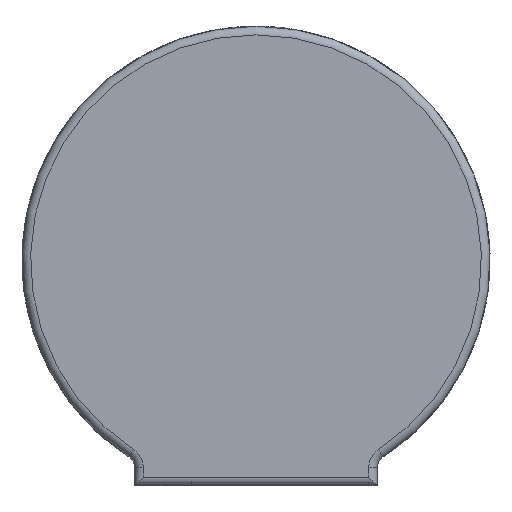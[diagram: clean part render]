
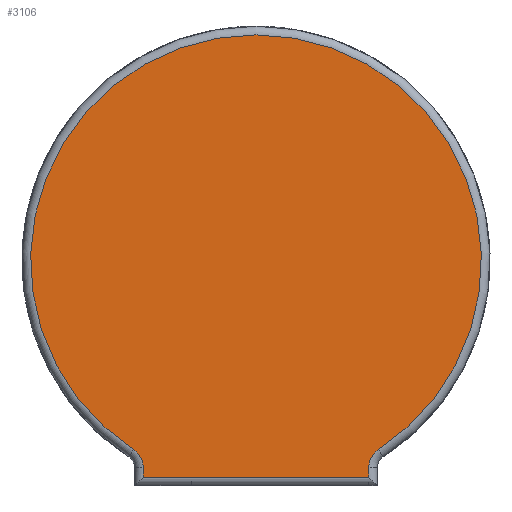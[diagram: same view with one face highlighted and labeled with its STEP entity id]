
A CAD part, front view. The second image highlights one B-rep face of the part: STEP entity #3106.
In plain terms, the highlighted planar face has unit normal (0, -1, 0).
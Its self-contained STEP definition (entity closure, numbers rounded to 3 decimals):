
#72 = CYLINDRICAL_SURFACE('',#73,1.);
#73 = AXIS2_PLACEMENT_3D('',#74,#75,#76);
#74 = CARTESIAN_POINT('',(-13.,-83.,-23.917));
#75 = DIRECTION('',(-0.,-0.,-1.));
#76 = DIRECTION('',(0.,-1.,0.));
#214 = TOROIDAL_SURFACE('',#215,2.5,1.);
#215 = AXIS2_PLACEMENT_3D('',#216,#217,#218);
#216 = CARTESIAN_POINT('',(-15.5,-83.,-23.917));
#217 = DIRECTION('',(-0.,-1.,-0.));
#218 = DIRECTION('',(0.544,-0.,0.839));
#321 = VERTEX_POINT('',#322);
#322 = CARTESIAN_POINT('',(-13.,-84.,-23.917));
#344 = VERTEX_POINT('',#345);
#345 = CARTESIAN_POINT('',(-13.,-84.,-25.));
#365 = CYLINDRICAL_SURFACE('',#366,1.);
#366 = AXIS2_PLACEMENT_3D('',#367,#368,#369);
#367 = CARTESIAN_POINT('',(-14.,-83.,-25.));
#368 = DIRECTION('',(1.,0.,0.));
#369 = DIRECTION('',(0.,-1.,0.));
#382 = EDGE_CURVE('',#321,#344,#383,.T.);
#383 = SURFACE_CURVE('',#384,(#388,#395),.PCURVE_S1.);
#384 = LINE('',#385,#386);
#385 = CARTESIAN_POINT('',(-13.,-84.,-23.917));
#386 = VECTOR('',#387,1.);
#387 = DIRECTION('',(-0.,-0.,-1.));
#388 = PCURVE('',#72,#389);
#389 = DEFINITIONAL_REPRESENTATION('',(#390),#394);
#390 = LINE('',#391,#392);
#391 = CARTESIAN_POINT('',(0.,0.));
#392 = VECTOR('',#393,1.);
#393 = DIRECTION('',(0.,1.));
#394 = ( GEOMETRIC_REPRESENTATION_CONTEXT(2) 
PARAMETRIC_REPRESENTATION_CONTEXT() REPRESENTATION_CONTEXT('2D SPACE',''
  ) );
#395 = PCURVE('',#396,#401);
#396 = PLANE('',#397);
#397 = AXIS2_PLACEMENT_3D('',#398,#399,#400);
#398 = CARTESIAN_POINT('',(-14.,-84.,-26.));
#399 = DIRECTION('',(0.,1.,0.));
#400 = DIRECTION('',(0.,0.,1.));
#401 = DEFINITIONAL_REPRESENTATION('',(#402),#406);
#402 = LINE('',#403,#404);
#403 = CARTESIAN_POINT('',(2.083,1.));
#404 = VECTOR('',#405,1.);
#405 = DIRECTION('',(-1.,-0.));
#406 = ( GEOMETRIC_REPRESENTATION_CONTEXT(2) 
PARAMETRIC_REPRESENTATION_CONTEXT() REPRESENTATION_CONTEXT('2D SPACE',''
  ) );
#1891 = VERTEX_POINT('',#1892);
#1892 = CARTESIAN_POINT('',(-14.14,-84.,-21.819));
#1906 = TOROIDAL_SURFACE('',#1907,26.,1.);
#1907 = AXIS2_PLACEMENT_3D('',#1908,#1909,#1910);
#1908 = CARTESIAN_POINT('',(0.,-83.,0.));
#1909 = DIRECTION('',(0.,1.,0.));
#1910 = DIRECTION('',(0.544,0.,-0.839));
#1917 = EDGE_CURVE('',#1891,#321,#1918,.T.);
#1918 = SURFACE_CURVE('',#1919,(#1924,#1931),.PCURVE_S1.);
#1919 = CIRCLE('',#1920,2.5);
#1920 = AXIS2_PLACEMENT_3D('',#1921,#1922,#1923);
#1921 = CARTESIAN_POINT('',(-15.5,-84.,-23.917));
#1922 = DIRECTION('',(0.,1.,0.));
#1923 = DIRECTION('',(0.544,-0.,0.839));
#1924 = PCURVE('',#214,#1925);
#1925 = DEFINITIONAL_REPRESENTATION('',(#1926),#1930);
#1926 = LINE('',#1927,#1928);
#1927 = CARTESIAN_POINT('',(-0.,1.571));
#1928 = VECTOR('',#1929,1.);
#1929 = DIRECTION('',(-1.,0.));
#1930 = ( GEOMETRIC_REPRESENTATION_CONTEXT(2) 
PARAMETRIC_REPRESENTATION_CONTEXT() REPRESENTATION_CONTEXT('2D SPACE',''
  ) );
#1931 = PCURVE('',#396,#1932);
#1932 = DEFINITIONAL_REPRESENTATION('',(#1933),#1937);
#1933 = CIRCLE('',#1934,2.5);
#1934 = AXIS2_PLACEMENT_2D('',#1935,#1936);
#1935 = CARTESIAN_POINT('',(2.083,-1.5));
#1936 = DIRECTION('',(0.839,0.544));
#1937 = ( GEOMETRIC_REPRESENTATION_CONTEXT(2) 
PARAMETRIC_REPRESENTATION_CONTEXT() REPRESENTATION_CONTEXT('2D SPACE',''
  ) );
#3106 = ADVANCED_FACE('',(#3107),#396,.F.);
#3107 = FACE_BOUND('',#3108,.F.);
#3108 = EDGE_LOOP('',(#3109,#3139,#3160,#3161,#3162,#3190));
#3109 = ORIENTED_EDGE('',*,*,#3110,.F.);
#3110 = EDGE_CURVE('',#3111,#3113,#3115,.T.);
#3111 = VERTEX_POINT('',#3112);
#3112 = CARTESIAN_POINT('',(13.,-84.,-25.));
#3113 = VERTEX_POINT('',#3114);
#3114 = CARTESIAN_POINT('',(13.,-84.,-23.917));
#3115 = SURFACE_CURVE('',#3116,(#3120,#3127),.PCURVE_S1.);
#3116 = LINE('',#3117,#3118);
#3117 = CARTESIAN_POINT('',(13.,-84.,-26.));
#3118 = VECTOR('',#3119,1.);
#3119 = DIRECTION('',(0.,0.,1.));
#3120 = PCURVE('',#396,#3121);
#3121 = DEFINITIONAL_REPRESENTATION('',(#3122),#3126);
#3122 = LINE('',#3123,#3124);
#3123 = CARTESIAN_POINT('',(0.,27.));
#3124 = VECTOR('',#3125,1.);
#3125 = DIRECTION('',(1.,0.));
#3126 = ( GEOMETRIC_REPRESENTATION_CONTEXT(2) 
PARAMETRIC_REPRESENTATION_CONTEXT() REPRESENTATION_CONTEXT('2D SPACE',''
  ) );
#3127 = PCURVE('',#3128,#3133);
#3128 = CYLINDRICAL_SURFACE('',#3129,1.);
#3129 = AXIS2_PLACEMENT_3D('',#3130,#3131,#3132);
#3130 = CARTESIAN_POINT('',(13.,-83.,-26.));
#3131 = DIRECTION('',(0.,0.,1.));
#3132 = DIRECTION('',(0.,-1.,0.));
#3133 = DEFINITIONAL_REPRESENTATION('',(#3134),#3138);
#3134 = LINE('',#3135,#3136);
#3135 = CARTESIAN_POINT('',(0.,0.));
#3136 = VECTOR('',#3137,1.);
#3137 = DIRECTION('',(0.,1.));
#3138 = ( GEOMETRIC_REPRESENTATION_CONTEXT(2) 
PARAMETRIC_REPRESENTATION_CONTEXT() REPRESENTATION_CONTEXT('2D SPACE',''
  ) );
#3139 = ORIENTED_EDGE('',*,*,#3140,.F.);
#3140 = EDGE_CURVE('',#344,#3111,#3141,.T.);
#3141 = SURFACE_CURVE('',#3142,(#3146,#3153),.PCURVE_S1.);
#3142 = LINE('',#3143,#3144);
#3143 = CARTESIAN_POINT('',(-14.,-84.,-25.));
#3144 = VECTOR('',#3145,1.);
#3145 = DIRECTION('',(1.,0.,0.));
#3146 = PCURVE('',#396,#3147);
#3147 = DEFINITIONAL_REPRESENTATION('',(#3148),#3152);
#3148 = LINE('',#3149,#3150);
#3149 = CARTESIAN_POINT('',(1.,0.));
#3150 = VECTOR('',#3151,1.);
#3151 = DIRECTION('',(0.,1.));
#3152 = ( GEOMETRIC_REPRESENTATION_CONTEXT(2) 
PARAMETRIC_REPRESENTATION_CONTEXT() REPRESENTATION_CONTEXT('2D SPACE',''
  ) );
#3153 = PCURVE('',#365,#3154);
#3154 = DEFINITIONAL_REPRESENTATION('',(#3155),#3159);
#3155 = LINE('',#3156,#3157);
#3156 = CARTESIAN_POINT('',(0.,0.));
#3157 = VECTOR('',#3158,1.);
#3158 = DIRECTION('',(0.,1.));
#3159 = ( GEOMETRIC_REPRESENTATION_CONTEXT(2) 
PARAMETRIC_REPRESENTATION_CONTEXT() REPRESENTATION_CONTEXT('2D SPACE',''
  ) );
#3160 = ORIENTED_EDGE('',*,*,#382,.F.);
#3161 = ORIENTED_EDGE('',*,*,#1917,.F.);
#3162 = ORIENTED_EDGE('',*,*,#3163,.F.);
#3163 = EDGE_CURVE('',#3164,#1891,#3166,.T.);
#3164 = VERTEX_POINT('',#3165);
#3165 = CARTESIAN_POINT('',(14.14,-84.,-21.819));
#3166 = SURFACE_CURVE('',#3167,(#3172,#3183),.PCURVE_S1.);
#3167 = CIRCLE('',#3168,26.);
#3168 = AXIS2_PLACEMENT_3D('',#3169,#3170,#3171);
#3169 = CARTESIAN_POINT('',(0.,-84.,0.));
#3170 = DIRECTION('',(0.,-1.,-0.));
#3171 = DIRECTION('',(0.544,0.,-0.839));
#3172 = PCURVE('',#396,#3173);
#3173 = DEFINITIONAL_REPRESENTATION('',(#3174),#3182);
#3174 = ( BOUNDED_CURVE() B_SPLINE_CURVE(2,(#3175,#3176,#3177,#3178,
#3179,#3180,#3181),.UNSPECIFIED.,.T.,.F.) B_SPLINE_CURVE_WITH_KNOTS((1,2
    ,2,2,2,1),(-2.094,0.,2.094,4.189,
6.283,8.378),.UNSPECIFIED.) CURVE() 
GEOMETRIC_REPRESENTATION_ITEM() RATIONAL_B_SPLINE_CURVE((1.,0.5,1.,0.5,
1.,0.5,1.)) REPRESENTATION_ITEM('') );
#3175 = CARTESIAN_POINT('',(4.181,28.14));
#3176 = CARTESIAN_POINT('',(28.673,65.931));
#3177 = CARTESIAN_POINT('',(49.155,25.825));
#3178 = CARTESIAN_POINT('',(69.637,-14.281));
#3179 = CARTESIAN_POINT('',(24.663,-11.966));
#3180 = CARTESIAN_POINT('',(-20.31,-9.651));
#3181 = CARTESIAN_POINT('',(4.181,28.14));
#3182 = ( GEOMETRIC_REPRESENTATION_CONTEXT(2) 
PARAMETRIC_REPRESENTATION_CONTEXT() REPRESENTATION_CONTEXT('2D SPACE',''
  ) );
#3183 = PCURVE('',#1906,#3184);
#3184 = DEFINITIONAL_REPRESENTATION('',(#3185),#3189);
#3185 = LINE('',#3186,#3187);
#3186 = CARTESIAN_POINT('',(-0.,4.712));
#3187 = VECTOR('',#3188,1.);
#3188 = DIRECTION('',(-1.,0.));
#3189 = ( GEOMETRIC_REPRESENTATION_CONTEXT(2) 
PARAMETRIC_REPRESENTATION_CONTEXT() REPRESENTATION_CONTEXT('2D SPACE',''
  ) );
#3190 = ORIENTED_EDGE('',*,*,#3191,.F.);
#3191 = EDGE_CURVE('',#3113,#3164,#3192,.T.);
#3192 = SURFACE_CURVE('',#3193,(#3198,#3205),.PCURVE_S1.);
#3193 = CIRCLE('',#3194,2.5);
#3194 = AXIS2_PLACEMENT_3D('',#3195,#3196,#3197);
#3195 = CARTESIAN_POINT('',(15.5,-84.,-23.917));
#3196 = DIRECTION('',(0.,1.,0.));
#3197 = DIRECTION('',(-1.,0.,0.));
#3198 = PCURVE('',#396,#3199);
#3199 = DEFINITIONAL_REPRESENTATION('',(#3200),#3204);
#3200 = CIRCLE('',#3201,2.5);
#3201 = AXIS2_PLACEMENT_2D('',#3202,#3203);
#3202 = CARTESIAN_POINT('',(2.083,29.5));
#3203 = DIRECTION('',(0.,-1.));
#3204 = ( GEOMETRIC_REPRESENTATION_CONTEXT(2) 
PARAMETRIC_REPRESENTATION_CONTEXT() REPRESENTATION_CONTEXT('2D SPACE',''
  ) );
#3205 = PCURVE('',#3206,#3211);
#3206 = TOROIDAL_SURFACE('',#3207,2.5,1.);
#3207 = AXIS2_PLACEMENT_3D('',#3208,#3209,#3210);
#3208 = CARTESIAN_POINT('',(15.5,-83.,-23.917));
#3209 = DIRECTION('',(-0.,-1.,-0.));
#3210 = DIRECTION('',(-1.,0.,0.));
#3211 = DEFINITIONAL_REPRESENTATION('',(#3212),#3216);
#3212 = LINE('',#3213,#3214);
#3213 = CARTESIAN_POINT('',(-0.,1.571));
#3214 = VECTOR('',#3215,1.);
#3215 = DIRECTION('',(-1.,0.));
#3216 = ( GEOMETRIC_REPRESENTATION_CONTEXT(2) 
PARAMETRIC_REPRESENTATION_CONTEXT() REPRESENTATION_CONTEXT('2D SPACE',''
  ) );
